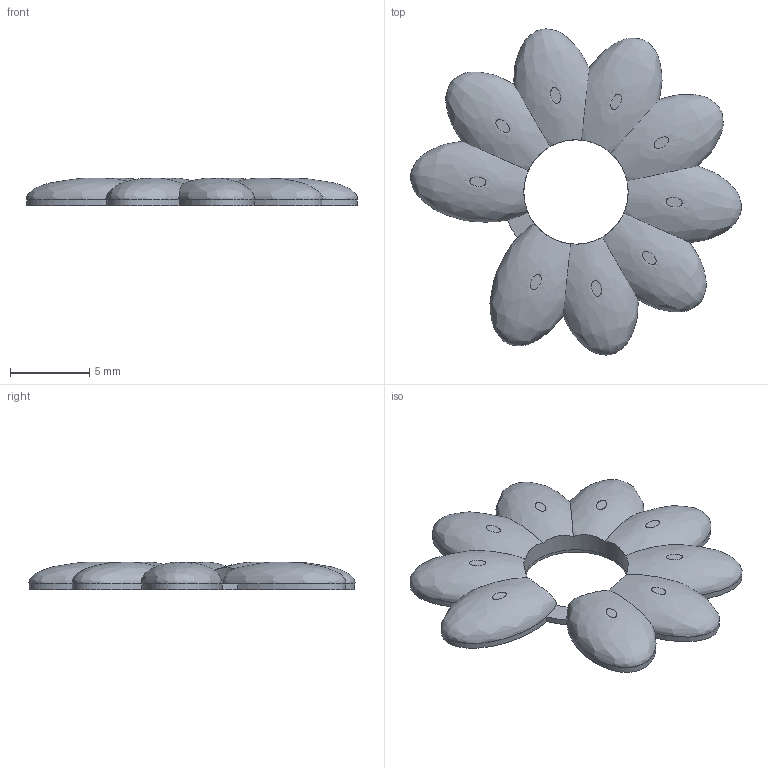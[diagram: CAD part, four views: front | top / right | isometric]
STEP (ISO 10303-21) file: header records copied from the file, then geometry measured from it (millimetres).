
FILE_DESCRIPTION(('Open CASCADE Model'),'2;1');
FILE_NAME('Open CASCADE Shape Model','2026-11-21T23:17:49',('Author'),( 'Open CASCADE'),'Open CASCADE STEP processor 7.9','Open CASCADE 7.9' ,'Unknown');
FILE_SCHEMA(('AUTOMOTIVE_DESIGN { 1 0 10303 214 1 1 1 1 }'));
Length unit declared in the file: millimetre
Products named in the file (1): Open CASCADE STEP translator 7.9 10
Bounding box: 20.82 x 20.54 x 1.72 mm (x, y, z)
Volume: 327.4 mm3; surface area: 577 mm2
Topology: 1 solids, 1 shells, 32 faces, 91 edges, 60 vertices
Faces by surface type: plane 11, extrusion 10, bspline 9, cylinder 2
Full cylindrical faces by diameter (mm): 6.57 x2
Entity records: 7742 total; most frequent: CARTESIAN_POINT 6177, DIRECTION 220, ORIENTED_EDGE 182, PCURVE 182, DEFINITIONAL_REPRESENTATION 182, B_SPLINE_CURVE_WITH_KNOTS 131, EDGE_CURVE 91, VECTOR 85
